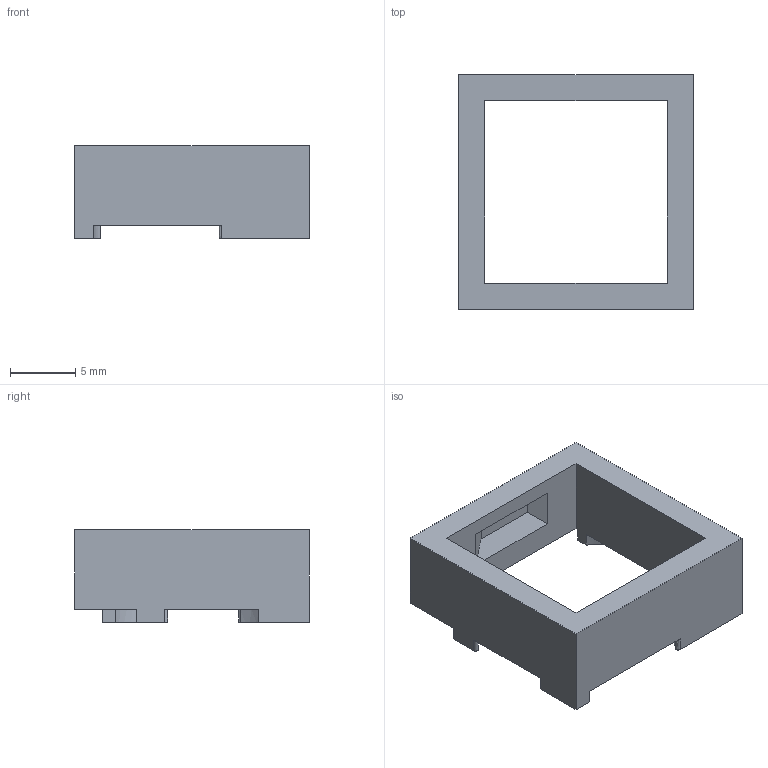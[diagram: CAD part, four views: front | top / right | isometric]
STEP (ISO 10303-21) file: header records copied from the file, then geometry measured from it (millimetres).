
FILE_DESCRIPTION(('Open CASCADE Model'),'2;1');
FILE_NAME('Open CASCADE Shape Model','2026-05-31T19:43:38',('Author'),( 'Open CASCADE'),'Open CASCADE STEP processor 7.6','Open CASCADE 7.6' ,'Unknown');
FILE_SCHEMA(('AP242_MANAGED_MODEL_BASED_3D_ENGINEERING_MIM_LF. {1 0 10303 442 1 1 4 }'));
Length unit declared in the file: millimetre
Products named in the file (1): Open CASCADE STEP translator 7.6 19
Bounding box: 18 x 18 x 7.1 mm (x, y, z)
Volume: 785.1 mm3; surface area: 1101.3 mm2
Topology: 1 solids, 1 shells, 47 faces, 132 edges, 88 vertices
Faces by surface type: plane 29, bspline 18
Entity records: 3564 total; most frequent: CARTESIAN_POINT 1178, DIRECTION 334, LINE 274, VECTOR 274, ORIENTED_EDGE 264, PCURVE 264, DEFINITIONAL_REPRESENTATION 264, EDGE_CURVE 132
